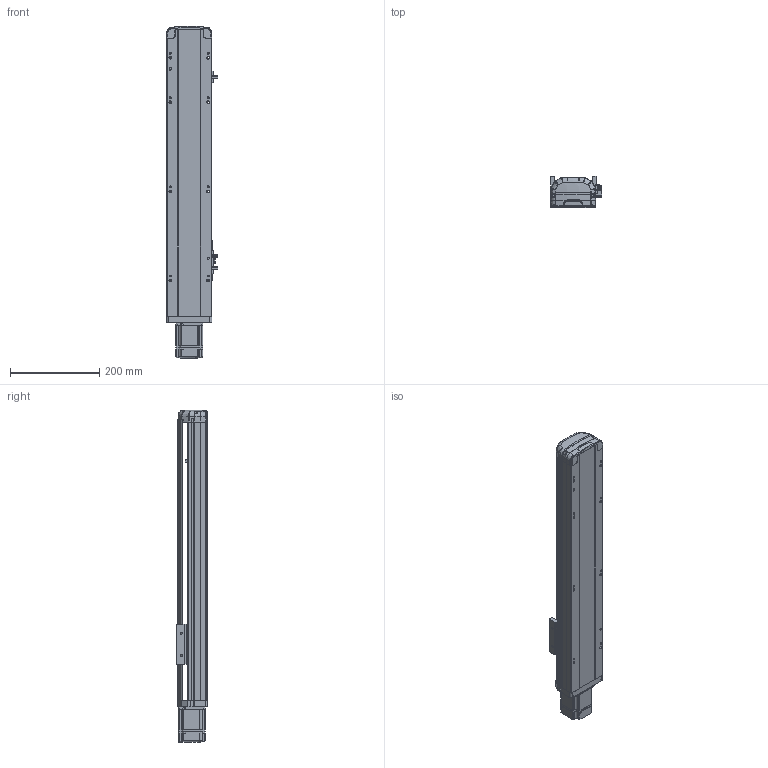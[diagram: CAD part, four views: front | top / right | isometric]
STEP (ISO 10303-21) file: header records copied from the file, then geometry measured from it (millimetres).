
FILE_DESCRIPTION (( 'STEP AP214' ), '1' );
FILE_NAME ('RTH10-XX-400-E-M20-C4.STEP', '2025-10-24T10:43:04', ( '' ), ( '' ), 'SwSTEP 2.0', 'SolidWorks 2018', '' );
FILE_SCHEMA (( 'AUTOMOTIVE_DESIGN' ));
Length unit declared in the file: millimetre
Products named in the file (9): N_200W-1^RTH10-XX-XX-E-M20-C4（方程式）; N_RTH12-E-008-M20电机板^RTH10-XX-XX-E-M20-C4（方程式）; N_RTH12-GY-004-滑座^RTH10-XX-XX-E-M20-C4（方程式）; N_RTH12-E-011P-臏倰第菁釱^RTH10-XX-XX-E-M20-C4ㄗ源最宒ㄘ; N_RTH12-GY-001P^RTH10-XX-XX-E-M20-C4（方程式）; N_OMRON EE-SX672 換覜ん^RTH10-XX-XX-E-M20-C4ㄗ源最宒ㄘ; N_RTH13-L-012感应片外置^RTH10-XX-XX-E-M20-C4（方程式）; N_RTH12-E-007P-奻裔^RTH10-XX-XX-E-M20-C4ㄗ源最宒ㄘ; RTH10-XX-400-E-M20-C4
Assembly tree (10 placements, depth 2):
  RTH10-XX-400-E-M20-C4
    N_RTH12-E-011P-臏倰第菁釱^RTH10-XX-XX-E-M20-C4ㄗ源最宒ㄘ
    N_RTH13-L-012感应片外置^RTH10-XX-XX-E-M20-C4（方程式）
    N_OMRON EE-SX672 換覜ん^RTH10-XX-XX-E-M20-C4ㄗ源最宒ㄘ  x3
    N_RTH12-E-007P-奻裔^RTH10-XX-XX-E-M20-C4ㄗ源最宒ㄘ
    N_RTH12-GY-001P^RTH10-XX-XX-E-M20-C4（方程式）
    N_RTH12-GY-004-滑座^RTH10-XX-XX-E-M20-C4（方程式）
    N_200W-1^RTH10-XX-XX-E-M20-C4（方程式）
    N_RTH12-E-008-M20电机板^RTH10-XX-XX-E-M20-C4（方程式）
Bounding box: 116.5 x 70 x 745.14 mm (x, y, z)
Volume: 2885247.9 mm3; surface area: 462466.8 mm2
Topology: 9 solids, 11 shells, 1988 faces, 5518 edges, 3622 vertices
Faces by surface type: plane 1004, cylinder 477, bspline 472, cone 33, torus 2
Entity records: 59616 total; most frequent: CARTESIAN_POINT 23314, ORIENTED_EDGE 8116, DIRECTION 6294, EDGE_CURVE 4064, VERTEX_POINT 2666, VECTOR 2202, LINE 2202, AXIS2_PLACEMENT_3D 2046
